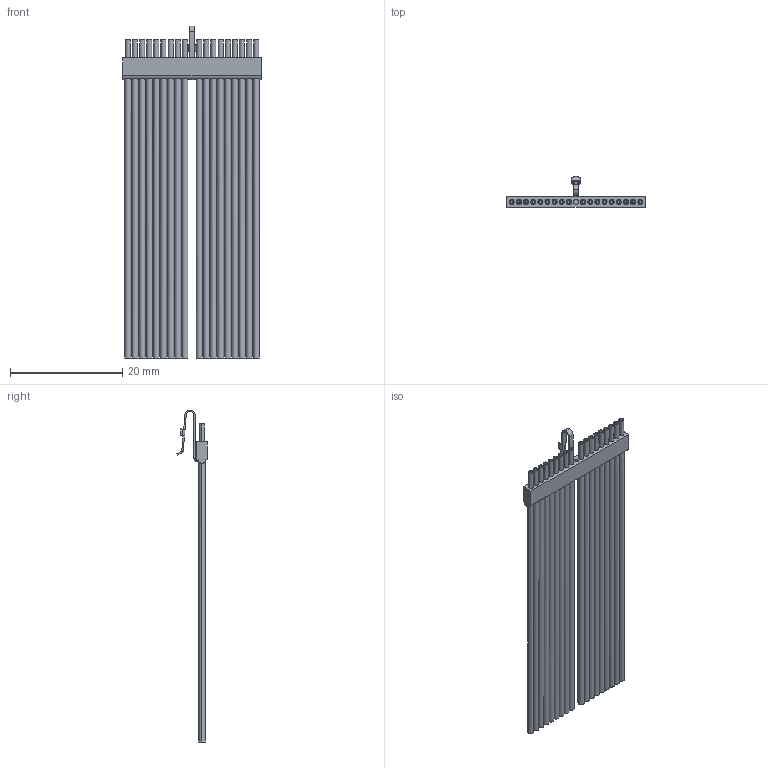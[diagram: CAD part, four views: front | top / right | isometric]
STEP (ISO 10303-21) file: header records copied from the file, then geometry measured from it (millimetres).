
FILE_DESCRIPTION (( 'STEP AP214' ), '1' );
FILE_NAME ('A25000-018.STEP', '2015-11-04T14:27:36', ( '' ), ( '' ), 'SwSTEP 2.0', 'SolidWorks 2015', '' );
FILE_SCHEMA (( 'AUTOMOTIVE_DESIGN' ));
Length unit declared in the file: inch
Products named in the file (1): A25000-018
Bounding box: 24.64 x 5.45 x 59.11 mm (x, y, z)
Volume: 1023.5 mm3; surface area: 4020.9 mm2
Topology: 1 solids, 19 shells, 640 faces, 1446 edges, 950 vertices
Faces by surface type: plane 282, cylinder 271, bspline 48, torus 39
Entity records: 21145 total; most frequent: CARTESIAN_POINT 6495, DIRECTION 3087, ORIENTED_EDGE 2892, EDGE_CURVE 1446, AXIS2_PLACEMENT_3D 1182, VERTEX_POINT 950, EDGE_LOOP 782, VECTOR 723
